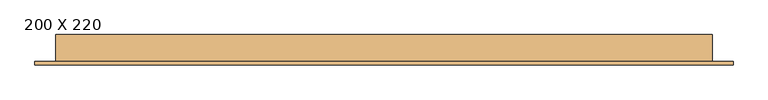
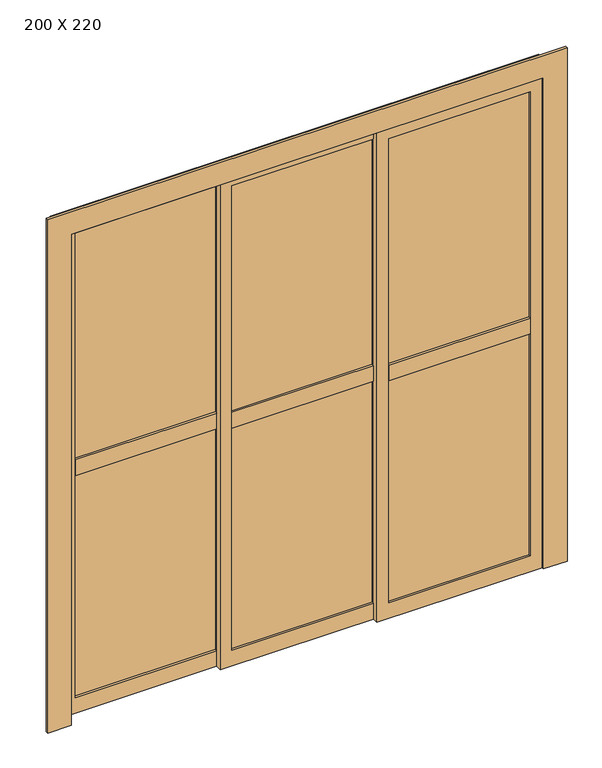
"""IFC4 building model written with IfcOpenShell, lengths in millimetres: door geometry, PORTA DE VIDRO COM ESQUADRIA DE CORRER - 3 FOLHAS : 200 X 220."""

from ifc_helpers import new_model, si_unit, frame, origin, place, context, project, spatial, polyline, outline, extrude, source, transform, mapped, element, save


def door_200_x_220_291763b9(model_context):
    return source(origin(), model_context, "Body", "SweptSolid", [
        extrude(outline(polyline([(357.881884, -50.0), (957.881884, -50.0), (957.881884, -75.0), (357.881884, -75.0), (357.881884, -50.0)])), frame((0.0, 0.0, 1065.0), z_axis=(0.0, 0.0, 1.0), x_axis=(1.0, 0.0, 0.0)), (0.0, 0.0, 1.0), 70.0),
        extrude(outline(polyline([(957.881884, -59.5), (957.881884, -65.5), (357.881884, -65.5), (357.881884, -59.5), (957.881884, -59.5)])), frame((0.0, 0.0, 70.0), z_axis=(0.0, 0.0, 1.0), x_axis=(1.0, 0.0, 0.0)), (0.0, 0.0, 1.0), 2080.0),
        extrude(outline(polyline([(2200.0, 1007.881884), (2200.0, 307.881884), (0.0, 307.881884), (0.0, 1007.881884), (2200.0, 1007.881884)]), holes=[polyline([(2150.0, 957.881884), (70.0, 957.881884), (70.0, 357.881884), (2150.0, 357.881884), (2150.0, 957.881884)])]), frame((0.0, -75.0, 0.0), z_axis=(0.0, 1.0, 0.0), x_axis=(0.0, 0.0, 1.0)), (0.0, 0.0, 1.0), 25.0),
        extrude(outline(polyline([(-292.118116, -25.0), (307.881884, -25.0), (307.881884, -50.0), (-292.118116, -50.0), (-292.118116, -25.0)])), frame((0.0, 0.0, 1065.0), z_axis=(0.0, 0.0, 1.0), x_axis=(1.0, 0.0, 0.0)), (0.0, 0.0, 1.0), 70.0),
        extrude(outline(polyline([(307.881884, -34.5), (307.881884, -40.5), (-292.118116, -40.5), (-292.118116, -34.5), (307.881884, -34.5)])), frame((0.0, 0.0, 70.0), z_axis=(0.0, 0.0, 1.0), x_axis=(1.0, 0.0, 0.0)), (0.0, 0.0, 1.0), 2080.0),
        extrude(outline(polyline([(2200.0, 357.881884), (2200.0, -342.118116), (0.0, -342.118116), (0.0, 357.881884), (2200.0, 357.881884)]), holes=[polyline([(2150.0, 307.881884), (70.0, 307.881884), (70.0, -292.118116), (2150.0, -292.118116), (2150.0, 307.881884)])]), frame((0.0, -50.0, 0.0), z_axis=(0.0, 1.0, 0.0), x_axis=(0.0, 0.0, 1.0)), (0.0, 0.0, 1.0), 25.0),
        extrude(outline(polyline([(-342.118116, -25.0), (-942.118116, -25.0), (-942.118116, 0.0), (-342.118116, 0.0), (-342.118116, -25.0)])), frame((0.0, 0.0, 1065.0), z_axis=(0.0, 0.0, 1.0), x_axis=(1.0, 0.0, 0.0)), (0.0, 0.0, 1.0), 70.0),
        extrude(outline(polyline([(-942.118116, -15.5), (-942.118116, -9.5), (-342.118116, -9.5), (-342.118116, -15.5), (-942.118116, -15.5)])), frame((0.0, 0.0, 70.0), z_axis=(0.0, 0.0, 1.0), x_axis=(1.0, 0.0, 0.0)), (0.0, 0.0, 1.0), 2080.0),
        extrude(outline(polyline([(2200.0, -992.118116), (0.0, -992.118116), (0.0, -292.118116), (2200.0, -292.118116), (2200.0, -992.118116)]), holes=[polyline([(2150.0, -942.118116), (2150.0, -342.118116), (70.0, -342.118116), (70.0, -942.118116), (2150.0, -942.118116)])]), frame((0.0, -25.0, 0.0), z_axis=(0.0, 1.0, 0.0), x_axis=(0.0, 0.0, 1.0)), (0.0, 0.0, 1.0), 25.0),
        extrude(outline(polyline([(2235.0, -1027.118116), (0.0, -1027.118116), (0.0, -992.118116), (2200.0, -992.118116), (2200.0, 1007.881884), (0.0, 1007.881884), (0.0, 1042.881884), (2235.0, 1042.881884), (2235.0, -1027.118116)])), frame((0.0, -75.0, 0.0), z_axis=(0.0, 1.0, 0.0), x_axis=(0.0, 0.0, 1.0)), (0.0, 0.0, 1.0), 85.0),
        extrude(outline(polyline([(2200.0, -992.118116), (2200.0, 1007.881884), (0.0, 1007.881884), (0.0, 1107.881884), (2300.0, 1107.881884), (2300.0, -1092.118116), (0.0, -1092.118116), (0.0, -992.118116), (2200.0, -992.118116)])), frame((0.0, -85.0, 0.0), z_axis=(0.0, 1.0, 0.0), x_axis=(0.0, 0.0, 1.0)), (0.0, 0.0, 1.0), 10.0),
    ])


if __name__ == "__main__":
    model = new_model("IFC4")
    model_context = context("Model", 3, world=origin())
    ifc_project = project(units=[si_unit("LENGTHUNIT", "METRE", prefix="MILLI")], contexts=[model_context])
    site = spatial("IfcSite", under=ifc_project)
    building = spatial("IfcBuilding", under=site)
    placement = place(None, origin())
    door_200_x_220_shape = door_200_x_220_291763b9(model_context)
    element("IfcDoor", 1, ObjectType="PORTA DE VIDRO COM ESQUADRIA DE CORRER - 3 FOLHAS : 200 X 220", at=placement, inside=building, context=model_context, shape_type="MappedRepresentation", body=[
        mapped(door_200_x_220_shape, transform((0.0, 0.0, 0.0), x_axis=(1.0, 0.0, 0.0), y_axis=(0.0, 1.0, 0.0), z_axis=(0.0, 0.0, 1.0))),
    ])
    save(model, "model.ifc")
